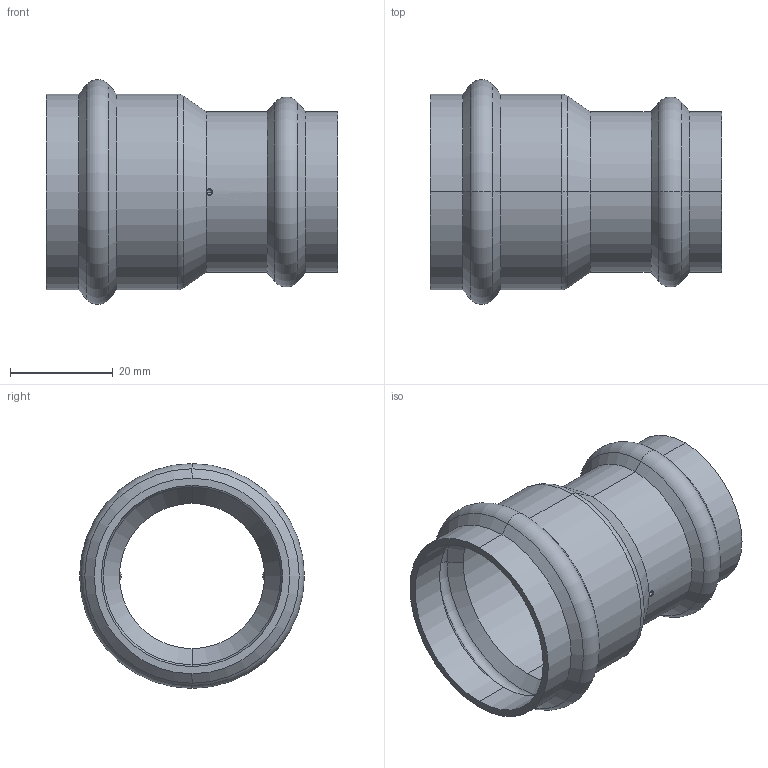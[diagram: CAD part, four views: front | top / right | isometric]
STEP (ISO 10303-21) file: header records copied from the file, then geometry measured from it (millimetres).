
FILE_DESCRIPTION (( 'STEP AP203' ), '1' );
FILE_NAME ('SP5240 35-28.STEP', '2017-04-24T08:39:36', ( '' ), ( '' ), 'SwSTEP 2.0', 'SolidWorks 2016', '' );
FILE_SCHEMA (( 'CONFIG_CONTROL_DESIGN' ));
Length unit declared in the file: millimetre
Products named in the file (1): SP5240 35-28
Bounding box: 56.75 x 43.8 x 43.8 mm (x, y, z)
Volume: 9475.2 mm3; surface area: 13811.6 mm2
Topology: 1 solids, 1 shells, 62 faces, 136 edges, 80 vertices
Faces by surface type: cone 24, cylinder 16, torus 12, sphere 8, plane 2
Entity records: 1881 total; most frequent: CARTESIAN_POINT 383, DIRECTION 342, ORIENTED_EDGE 272, AXIS2_PLACEMENT_3D 151, EDGE_CURVE 136, CIRCLE 88, VERTEX_POINT 80, EDGE_LOOP 68
